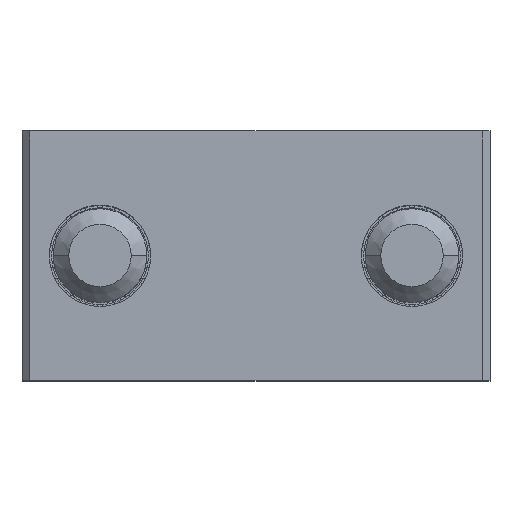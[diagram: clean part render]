
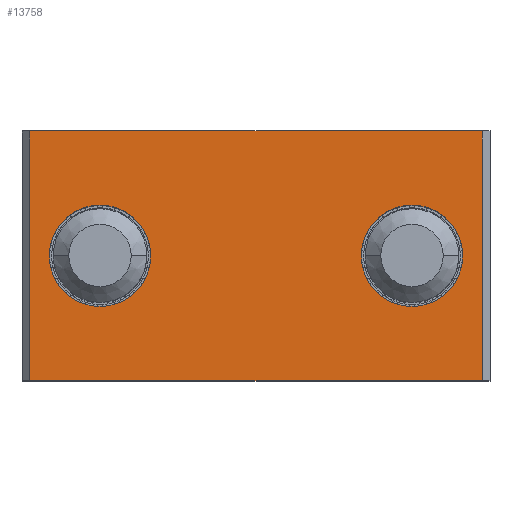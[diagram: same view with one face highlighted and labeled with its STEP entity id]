
A CAD part, top view. The second image highlights one B-rep face of the part: STEP entity #13758.
In plain terms, the highlighted planar face has unit normal (0, 0, 1).
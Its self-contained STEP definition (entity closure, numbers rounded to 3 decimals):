
#373 = CARTESIAN_POINT ( 'NONE',  ( -17.573, 38.491, 8. ) ) ;
#1274 = CARTESIAN_POINT ( 'NONE',  ( -9.823, 30.491, 8. ) ) ;
#1370 = ORIENTED_EDGE ( 'NONE', *, *, #16415, .T. ) ;
#1686 = ORIENTED_EDGE ( 'NONE', *, *, #14494, .T. ) ;
#1956 = VECTOR ( 'NONE', #3712, 1000. ) ;
#2089 = ORIENTED_EDGE ( 'NONE', *, *, #15646, .F. ) ;
#2346 = CARTESIAN_POINT ( 'NONE',  ( -38.823, 38.491, 8. ) ) ;
#2447 = CARTESIAN_POINT ( 'NONE',  ( -37.573, 38.491, 8. ) ) ;
#2626 = AXIS2_PLACEMENT_3D ( 'NONE', #7949, #17525, #9315 ) ;
#2766 = FACE_BOUND ( 'NONE', #11751, .T. ) ;
#3019 = VERTEX_POINT ( 'NONE', #13419 ) ;
#3392 = DIRECTION ( 'NONE',  ( 1., 0., 0. ) ) ;
#3712 = DIRECTION ( 'NONE',  ( 0., 1., 0. ) ) ;
#4373 = CIRCLE ( 'NONE', #9518, 3.25 ) ;
#4408 = DIRECTION ( 'NONE',  ( 0., 0., -1. ) ) ;
#4824 = ORIENTED_EDGE ( 'NONE', *, *, #6486, .F. ) ;
#4829 = CARTESIAN_POINT ( 'NONE',  ( -9.823, 30.491, 8. ) ) ;
#5677 = CARTESIAN_POINT ( 'NONE',  ( -31.073, 38.491, 8. ) ) ;
#6137 = CARTESIAN_POINT ( 'NONE',  ( -9.823, 38.491, 8. ) ) ;
#6180 = DIRECTION ( 'NONE',  ( -1., 0., 0. ) ) ;
#6413 = FACE_BOUND ( 'NONE', #10431, .T. ) ;
#6486 = EDGE_CURVE ( 'NONE', #15545, #3019, #12886, .T. ) ;
#6516 = CARTESIAN_POINT ( 'NONE',  ( -24.323, 30.491, 8. ) ) ;
#6737 = VERTEX_POINT ( 'NONE', #5677 ) ;
#6755 = DIRECTION ( 'NONE',  ( 0., 0., -1. ) ) ;
#6913 = EDGE_CURVE ( 'NONE', #3019, #14440, #12013, .T. ) ;
#6988 = CIRCLE ( 'NONE', #11138, 3.25 ) ;
#7287 = CARTESIAN_POINT ( 'NONE',  ( -34.323, 38.491, 8. ) ) ;
#7614 = LINE ( 'NONE', #6137, #12317 ) ;
#7938 = VECTOR ( 'NONE', #3392, 1000. ) ;
#7949 = CARTESIAN_POINT ( 'NONE',  ( -14.323, 38.491, 8. ) ) ;
#8302 = EDGE_CURVE ( 'NONE', #14440, #9346, #7614, .T. ) ;
#8678 = DIRECTION ( 'NONE',  ( -1., 0., 0. ) ) ;
#9200 = EDGE_LOOP ( 'NONE', ( #2089, #14515, #16894, #4824 ) ) ;
#9315 = DIRECTION ( 'NONE',  ( -1., 0., 0. ) ) ;
#9346 = VERTEX_POINT ( 'NONE', #1274 ) ;
#9513 = CIRCLE ( 'NONE', #2626, 3.25 ) ;
#9518 = AXIS2_PLACEMENT_3D ( 'NONE', #14995, #6755, #16364 ) ;
#9637 = LINE ( 'NONE', #6516, #13294 ) ;
#10034 = FACE_OUTER_BOUND ( 'NONE', #9200, .T. ) ;
#10094 = CIRCLE ( 'NONE', #11020, 3.25 ) ;
#10431 = EDGE_LOOP ( 'NONE', ( #1370, #12531 ) ) ;
#10567 = CARTESIAN_POINT ( 'NONE',  ( -9.823, 46.491, 8. ) ) ;
#11020 = AXIS2_PLACEMENT_3D ( 'NONE', #12594, #4408, #13941 ) ;
#11138 = AXIS2_PLACEMENT_3D ( 'NONE', #7287, #16906, #8678 ) ;
#11604 = CARTESIAN_POINT ( 'NONE',  ( -24.323, 46.491, 8. ) ) ;
#11751 = EDGE_LOOP ( 'NONE', ( #14645, #1686 ) ) ;
#11972 = CARTESIAN_POINT ( 'NONE',  ( -38.823, 30.491, 8. ) ) ;
#12013 = LINE ( 'NONE', #11604, #7938 ) ;
#12317 = VECTOR ( 'NONE', #14350, 1000. ) ;
#12531 = ORIENTED_EDGE ( 'NONE', *, *, #15175, .T. ) ;
#12594 = CARTESIAN_POINT ( 'NONE',  ( -34.323, 38.491, 8. ) ) ;
#12819 = VERTEX_POINT ( 'NONE', #15211 ) ;
#12886 = LINE ( 'NONE', #2346, #1956 ) ;
#13017 = PLANE ( 'NONE',  #17526 ) ;
#13294 = VECTOR ( 'NONE', #14908, 1000. ) ;
#13419 = CARTESIAN_POINT ( 'NONE',  ( -38.823, 46.491, 8. ) ) ;
#13758 = ADVANCED_FACE ( 'NONE', ( #2766, #6413, #10034 ), #13017, .F. ) ;
#13941 = DIRECTION ( 'NONE',  ( -1., 0., 0. ) ) ;
#14350 = DIRECTION ( 'NONE',  ( 0., -1., 0. ) ) ;
#14386 = DIRECTION ( 'NONE',  ( 0., 0., -1. ) ) ;
#14440 = VERTEX_POINT ( 'NONE', #10567 ) ;
#14475 = VERTEX_POINT ( 'NONE', #2447 ) ;
#14494 = EDGE_CURVE ( 'NONE', #12819, #15785, #9513, .T. ) ;
#14515 = ORIENTED_EDGE ( 'NONE', *, *, #8302, .F. ) ;
#14645 = ORIENTED_EDGE ( 'NONE', *, *, #15049, .T. ) ;
#14908 = DIRECTION ( 'NONE',  ( -1., 0., 0. ) ) ;
#14995 = CARTESIAN_POINT ( 'NONE',  ( -14.323, 38.491, 8. ) ) ;
#15049 = EDGE_CURVE ( 'NONE', #15785, #12819, #4373, .T. ) ;
#15175 = EDGE_CURVE ( 'NONE', #6737, #14475, #10094, .T. ) ;
#15211 = CARTESIAN_POINT ( 'NONE',  ( -11.073, 38.491, 8. ) ) ;
#15545 = VERTEX_POINT ( 'NONE', #11972 ) ;
#15646 = EDGE_CURVE ( 'NONE', #9346, #15545, #9637, .T. ) ;
#15785 = VERTEX_POINT ( 'NONE', #373 ) ;
#16364 = DIRECTION ( 'NONE',  ( -1., 0., 0. ) ) ;
#16415 = EDGE_CURVE ( 'NONE', #14475, #6737, #6988, .T. ) ;
#16894 = ORIENTED_EDGE ( 'NONE', *, *, #6913, .F. ) ;
#16906 = DIRECTION ( 'NONE',  ( 0., 0., -1. ) ) ;
#17525 = DIRECTION ( 'NONE',  ( 0., 0., -1. ) ) ;
#17526 = AXIS2_PLACEMENT_3D ( 'NONE', #4829, #14386, #6180 ) ;
